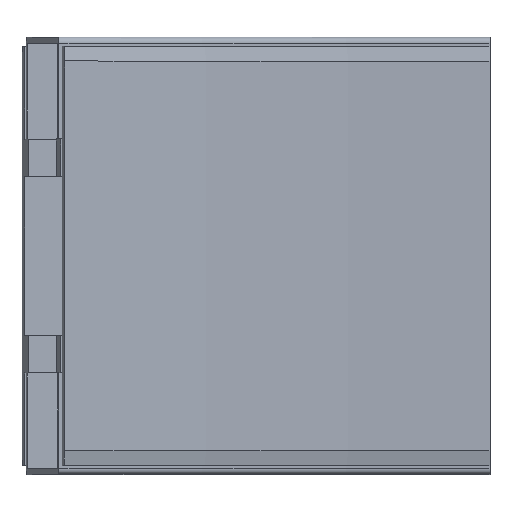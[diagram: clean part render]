
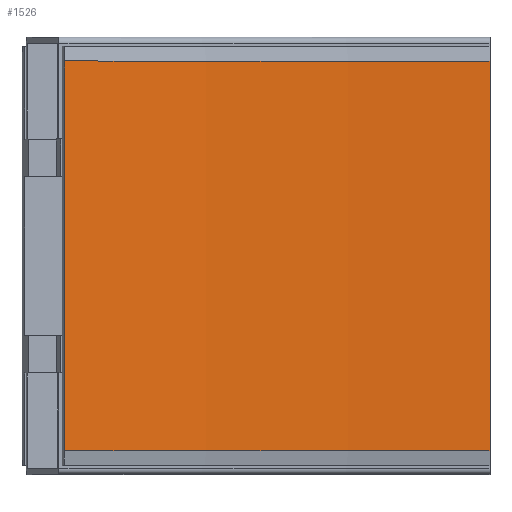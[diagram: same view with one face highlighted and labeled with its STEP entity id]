
A CAD part, top view. The second image highlights one B-rep face of the part: STEP entity #1526.
In plain terms, the highlighted cylindrical face has radius 817.5 mm (diameter 1635 mm), a partial arc.
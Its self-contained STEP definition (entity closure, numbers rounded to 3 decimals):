
#80=CYLINDRICAL_SURFACE('',#1643,817.5);
#149=FACE_OUTER_BOUND('',#236,.T.);
#236=EDGE_LOOP('',(#1052,#1053,#1054,#1055));
#323=CIRCLE('',#1633,817.5);
#328=CIRCLE('',#1642,817.5);
#400=LINE('',#2215,#526);
#401=LINE('',#2216,#527);
#526=VECTOR('',#1808,10.);
#527=VECTOR('',#1809,10.);
#643=VERTEX_POINT('',#2183);
#644=VERTEX_POINT('',#2185);
#652=VERTEX_POINT('',#2209);
#653=VERTEX_POINT('',#2211);
#799=EDGE_CURVE('',#643,#644,#323,.T.);
#813=EDGE_CURVE('',#652,#653,#328,.T.);
#814=EDGE_CURVE('',#643,#652,#400,.T.);
#815=EDGE_CURVE('',#644,#653,#401,.T.);
#1052=ORIENTED_EDGE('',*,*,#814,.T.);
#1053=ORIENTED_EDGE('',*,*,#813,.T.);
#1054=ORIENTED_EDGE('',*,*,#815,.F.);
#1055=ORIENTED_EDGE('',*,*,#799,.F.);
#1526=ADVANCED_FACE('',(#149),#80,.F.);
#1633=AXIS2_PLACEMENT_3D('',#2186,#1777,#1778);
#1642=AXIS2_PLACEMENT_3D('',#2213,#1804,#1805);
#1643=AXIS2_PLACEMENT_3D('',#2214,#1806,#1807);
#1777=DIRECTION('center_axis',(0.,1.,0.));
#1778=DIRECTION('ref_axis',(0.,0.,-1.));
#1804=DIRECTION('center_axis',(0.,1.,0.));
#1805=DIRECTION('ref_axis',(0.,0.,-1.));
#1806=DIRECTION('center_axis',(0.,1.,0.));
#1807=DIRECTION('ref_axis',(0.,0.,-1.));
#1808=DIRECTION('',(0.,1.,0.));
#1809=DIRECTION('',(0.,1.,0.));
#2183=CARTESIAN_POINT('',(0.,-65.,42.5));
#2185=CARTESIAN_POINT('',(-141.957,-65.,54.92));
#2186=CARTESIAN_POINT('Origin',(0.,-65.,
860.));
#2209=CARTESIAN_POINT('',(0.,65.,42.5));
#2211=CARTESIAN_POINT('',(-141.957,65.,54.92));
#2213=CARTESIAN_POINT('Origin',(0.,65.,
860.));
#2214=CARTESIAN_POINT('Origin',(0.,0.,860.));
#2215=CARTESIAN_POINT('',(0.,-65.,42.5));
#2216=CARTESIAN_POINT('',(-141.957,-65.,54.92));
